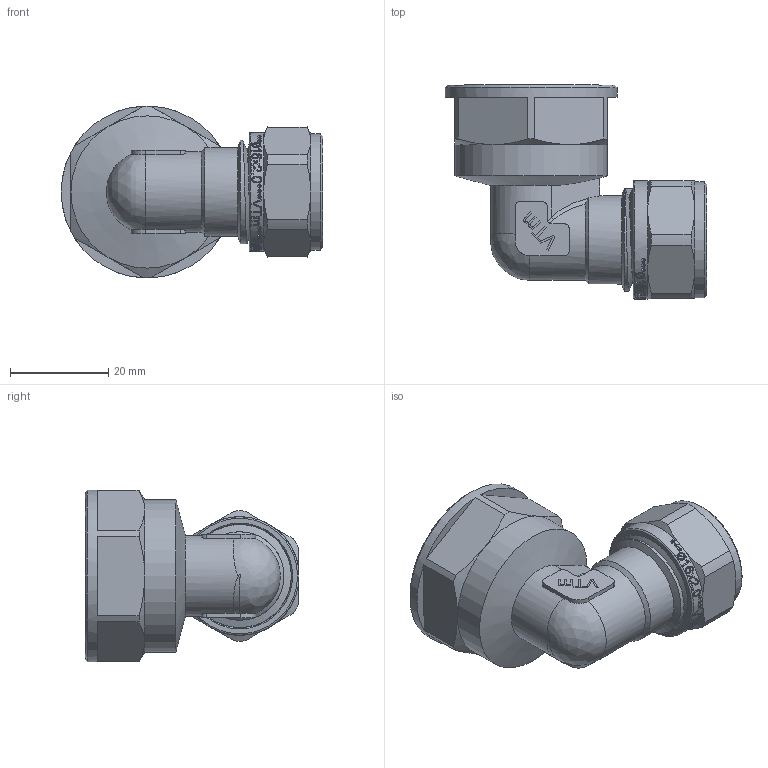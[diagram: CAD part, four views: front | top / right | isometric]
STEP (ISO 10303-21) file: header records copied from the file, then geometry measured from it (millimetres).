
FILE_DESCRIPTION(/* description */ (''),/* implementation_level */ '2;1');
FILE_NAME(/* name */ 'F:\Артём\00000\Работа удаленка\Обжимные фитинги\VTm.352.N.001605.stp',/* time_stamp */ '2020-08-06T13:19:28+03:00',/* author */ ('almis'),/* organization */ (''),/* preprocessor_version */ 'ST-DEVELOPER v18',/* originating_system */ 'Autodesk Inventor 2020',/* authorisation */ '');
FILE_SCHEMA (('AUTOMOTIVE_DESIGN { 1 0 10303 214 3 1 1 }'));
Length unit declared in the file: millimetre
Products named in the file (1): VTm.301.N.001604
Bounding box: 53.27 x 43.56 x 35 mm (x, y, z)
Volume: 16267 mm3; surface area: 13239.4 mm2
Topology: 1 solids, 2 shells, 805 faces, 2240 edges, 1498 vertices
Faces by surface type: bspline 370, plane 271, cylinder 105, cone 33, torus 25, sphere 1
Full cylindrical faces by diameter (mm): 8 x1, 9.4 x2, 11.75 x4, 12.5 x1, 16.124 x4, 16.2 x1, 16.724 x5, 17.124 x1, 17.4 x1, 18 x1, 18.724 x1, 21 x2, 23.624 x1, 24.1 x7, 24.124 x1, 27.5 x7, 31 x1, 35 x1
Entity records: 33847 total; most frequent: CARTESIAN_POINT 15540, ORIENTED_EDGE 4478, DIRECTION 2664, EDGE_CURVE 2239, VERTEX_POINT 1498, LINE 1012, VECTOR 1012, EDGE_LOOP 869
